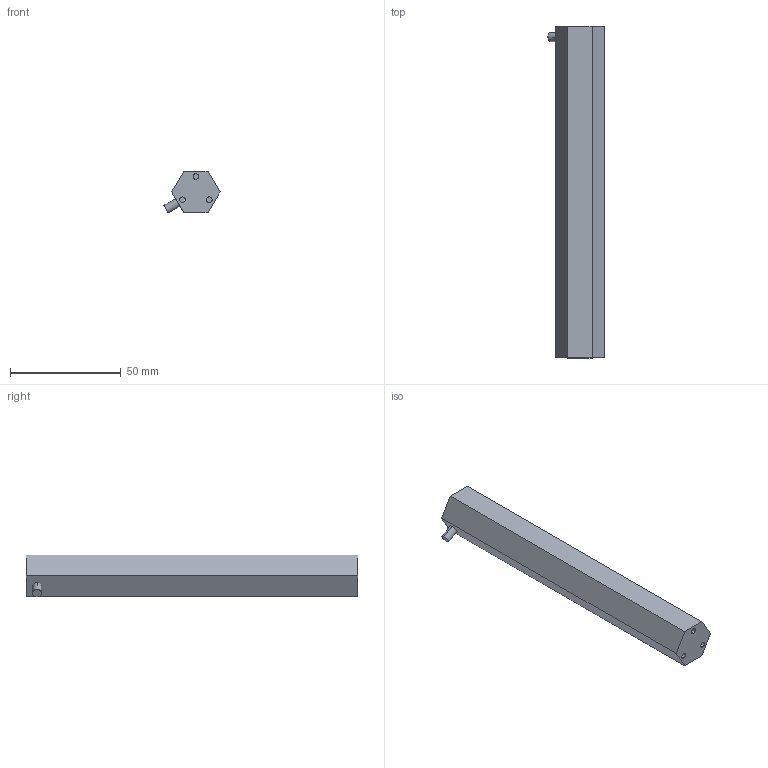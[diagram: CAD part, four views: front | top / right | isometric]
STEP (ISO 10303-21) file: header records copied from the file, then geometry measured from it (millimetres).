
FILE_DESCRIPTION (( 'STEP AP214' ), '1' );
FILE_NAME ('Painde_adapter.STEP', '2025-05-19T12:03:05', ( '' ), ( '' ), 'SwSTEP 2.0', 'SolidWorks 2024', '' );
FILE_SCHEMA (( 'AUTOMOTIVE_DESIGN' ));
Length unit declared in the file: millimetre
Products named in the file (1): Painde_adapter
Bounding box: 25.38 x 149.9 x 18.96 mm (x, y, z)
Volume: 46154.1 mm3; surface area: 10980.8 mm2
Topology: 1 solids, 1 shells, 20 faces, 42 edges, 28 vertices
Faces by surface type: plane 12, cylinder 8
Entity records: 565 total; most frequent: DIRECTION 100, CARTESIAN_POINT 91, ORIENTED_EDGE 84, EDGE_CURVE 42, AXIS2_PLACEMENT_3D 37, VERTEX_POINT 28, LINE 26, VECTOR 26
